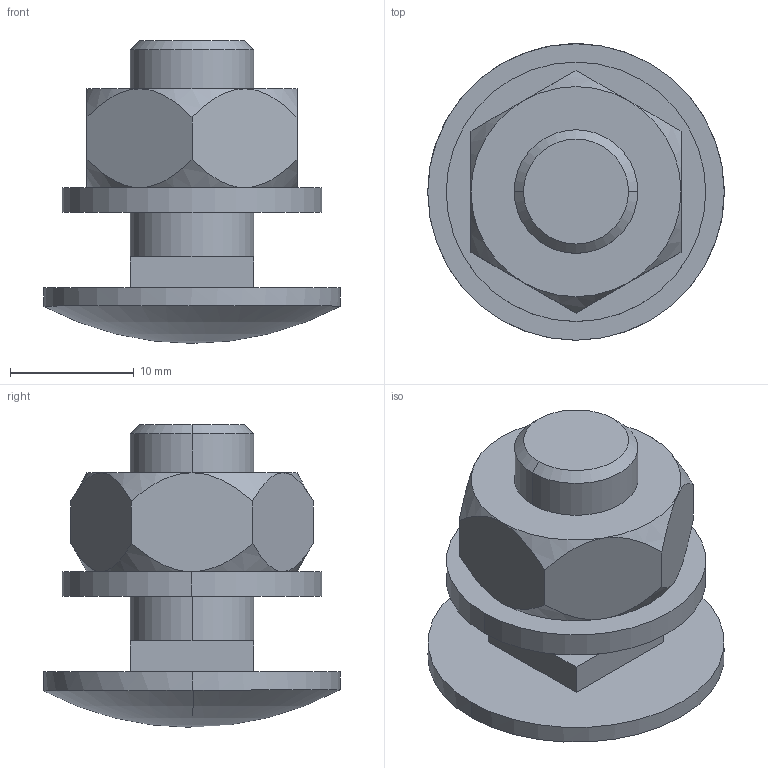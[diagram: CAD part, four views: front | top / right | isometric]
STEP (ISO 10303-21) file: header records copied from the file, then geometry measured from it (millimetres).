
FILE_DESCRIPTION(('Creo Elements/Direct Modeling STEP Export'),'2;1');
FILE_NAME('KLS 10x20F.stp','2021-02-04T15:15:03',(''),(''),'PTC Creo Elements/Direct Modeling STEP processor for AP214 (Solid Model)','PTC Creo Elements/Direct Modeling 19.0C 15-Aug-2015 (C) Parametric Technology GmbH','');
FILE_SCHEMA(('AUTOMOTIVE_DESIGN { 1 0 10303 214 1 1 1 1 }'));
Length unit declared in the file: millimetre
Products named in the file (4): FRSV_10x20; US_10x21; SEM_10F; KLS_10x20F
Assembly tree (3 placements, depth 2):
  KLS_10x20F
    SEM_10F
    US_10x21
    FRSV_10x20
Bounding box: 24 x 24 x 24.5 mm (x, y, z)
Volume: 4839.3 mm3; surface area: 3406.2 mm2
Topology: 3 solids, 3 shells, 48 faces, 105 edges, 62 vertices
Faces by surface type: plane 20, cone 16, cylinder 10, sphere 2
Entity records: 3391 total; most frequent: CARTESIAN_POINT 2233, ORIENTED_EDGE 206, DIRECTION 174, EDGE_CURVE 103, AXIS2_PLACEMENT_3D 69, VERTEX_POINT 62, EDGE_LOOP 53, FACE_OUTER_BOUND 48
